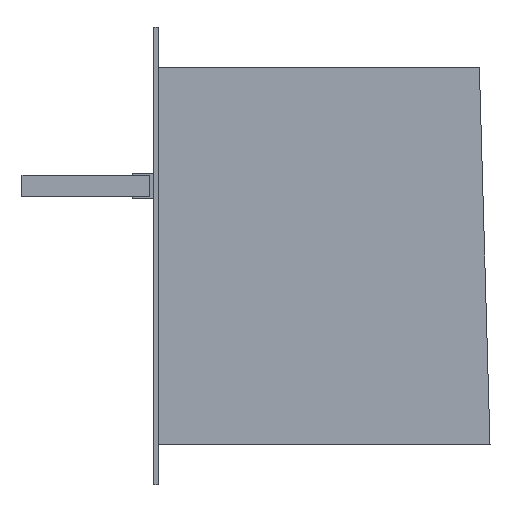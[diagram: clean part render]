
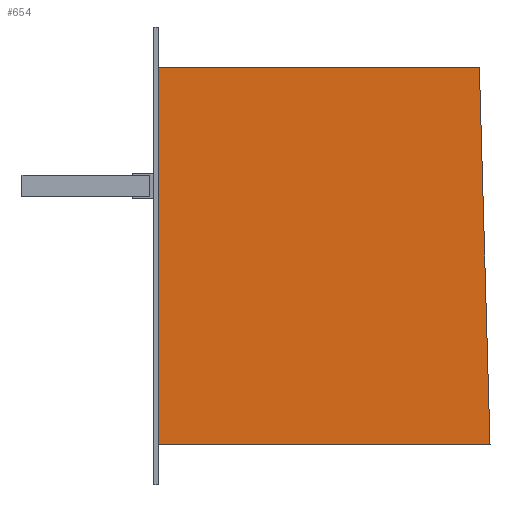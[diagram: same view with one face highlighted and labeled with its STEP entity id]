
A CAD part, left-side view. The second image highlights one B-rep face of the part: STEP entity #654.
In plain terms, the highlighted planar face has unit normal (-1, 0, 0).
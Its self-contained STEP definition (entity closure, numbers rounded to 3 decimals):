
#26 = PLANE ( 'NONE',  #81 ) ;
#29 = LINE ( 'NONE', #1946, #334 ) ;
#33 = ORIENTED_EDGE ( 'NONE', *, *, #779, .T. ) ;
#67 = LINE ( 'NONE', #1883, #1128 ) ;
#72 = EDGE_CURVE ( 'NONE', #1750, #1487, #905, .T. ) ;
#81 = AXIS2_PLACEMENT_3D ( 'NONE', #620, #1389, #189 ) ;
#84 = DIRECTION ( 'NONE',  ( 0., 0.028, 1. ) ) ;
#141 = CARTESIAN_POINT ( 'NONE',  ( -1041., 0., 88.5 ) ) ;
#189 = DIRECTION ( 'NONE',  ( 0., 0., -1. ) ) ;
#254 = CARTESIAN_POINT ( 'NONE',  ( -1041., 0., -88.5 ) ) ;
#272 = CARTESIAN_POINT ( 'NONE',  ( -1041., -151., 88.5 ) ) ;
#320 = ORIENTED_EDGE ( 'NONE', *, *, #692, .T. ) ;
#327 = VECTOR ( 'NONE', #597, 1000. ) ;
#334 = VECTOR ( 'NONE', #1212, 1000. ) ;
#491 = LINE ( 'NONE', #1654, #327 ) ;
#582 = DIRECTION ( 'NONE',  ( 0., 1., 0. ) ) ;
#597 = DIRECTION ( 'NONE',  ( 0., 0., -1. ) ) ;
#620 = CARTESIAN_POINT ( 'NONE',  ( -1041., 2., 107.5 ) ) ;
#654 = ADVANCED_FACE ( 'NONE', ( #1366 ), #26, .F. ) ;
#692 = EDGE_CURVE ( 'NONE', #1487, #1388, #491, .T. ) ;
#767 = CARTESIAN_POINT ( 'NONE',  ( -1041., -156., -88.5 ) ) ;
#779 = EDGE_CURVE ( 'NONE', #1088, #1750, #67, .T. ) ;
#824 = ORIENTED_EDGE ( 'NONE', *, *, #1435, .T. ) ;
#905 = LINE ( 'NONE', #141, #1940 ) ;
#1088 = VERTEX_POINT ( 'NONE', #767 ) ;
#1128 = VECTOR ( 'NONE', #84, 1000. ) ;
#1212 = DIRECTION ( 'NONE',  ( 0., -1., 0. ) ) ;
#1366 = FACE_OUTER_BOUND ( 'NONE', #1595, .T. ) ;
#1383 = CARTESIAN_POINT ( 'NONE',  ( -1041., 0., 88.5 ) ) ;
#1388 = VERTEX_POINT ( 'NONE', #254 ) ;
#1389 = DIRECTION ( 'NONE',  ( 1., 0., 0. ) ) ;
#1435 = EDGE_CURVE ( 'NONE', #1388, #1088, #29, .T. ) ;
#1487 = VERTEX_POINT ( 'NONE', #1383 ) ;
#1595 = EDGE_LOOP ( 'NONE', ( #824, #33, #1832, #320 ) ) ;
#1654 = CARTESIAN_POINT ( 'NONE',  ( -1041., 0., 88.5 ) ) ;
#1750 = VERTEX_POINT ( 'NONE', #272 ) ;
#1832 = ORIENTED_EDGE ( 'NONE', *, *, #72, .T. ) ;
#1883 = CARTESIAN_POINT ( 'NONE',  ( -1041., -151., 88.5 ) ) ;
#1940 = VECTOR ( 'NONE', #582, 1000. ) ;
#1946 = CARTESIAN_POINT ( 'NONE',  ( -1041., 0., -88.5 ) ) ;
